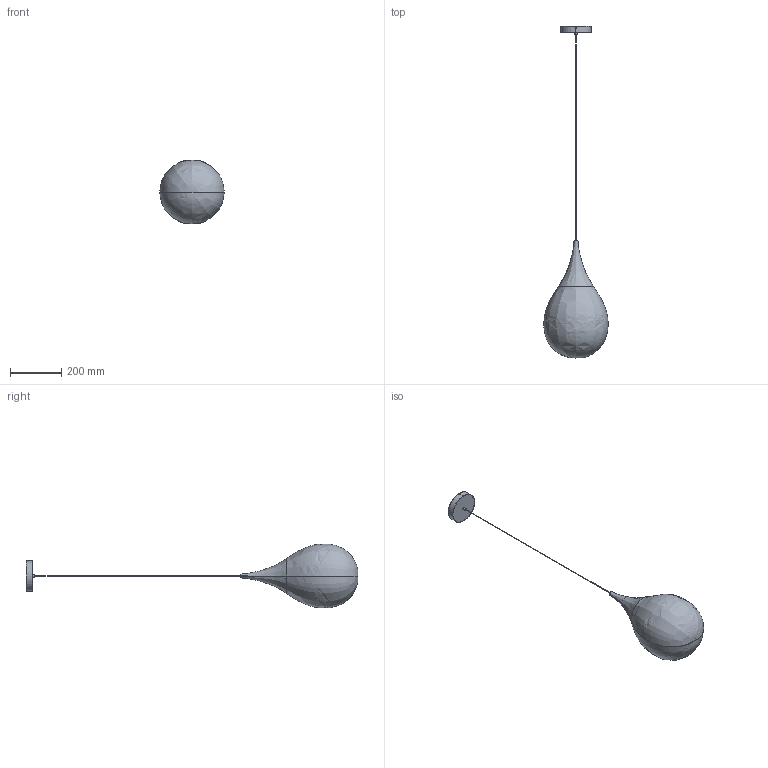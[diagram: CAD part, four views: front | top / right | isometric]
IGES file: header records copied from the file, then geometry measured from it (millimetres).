
Start section: SolidWorks IGES file using analytic representation for surfaces
Global section: file name: F:\燠隴矨\3D\2026-3\Alabaster Raindrop Pendant Light-D25cm.IGS,15; native system: HSolidWorks 2022; preprocessor: SolidWorks 2022; author: MyPC; date: 260327.105617; units: millimetre
Bounding box: 251.9 x 1299.03 x 248.96 mm (x, y, z)
Surface area: 559626.4 mm2 (no closed solid volume)
Topology: 0 solids, 0 shells, 118 faces, 1570 edges, 1563 vertices
Faces by surface type: revolution 62, bspline 56
